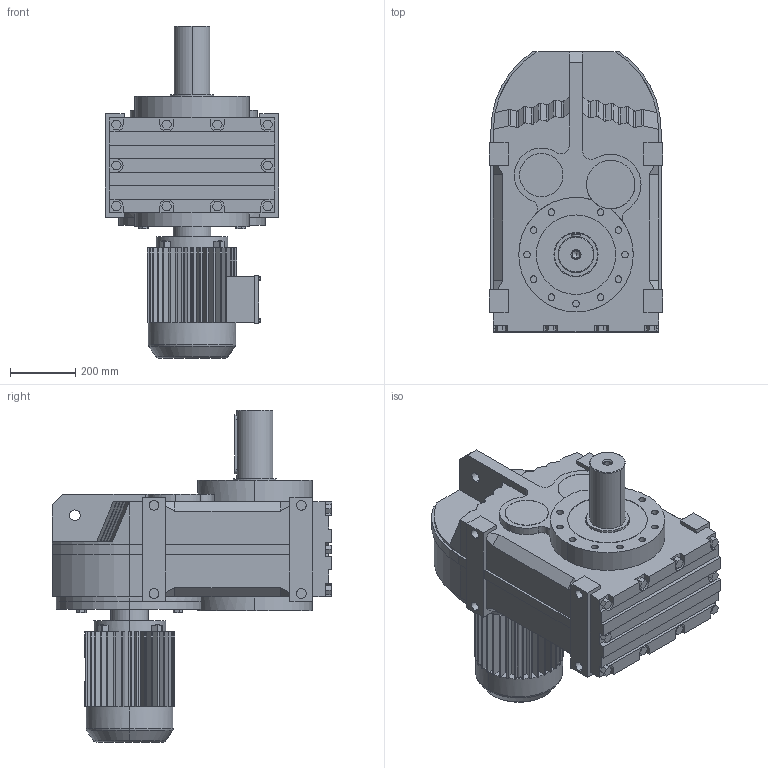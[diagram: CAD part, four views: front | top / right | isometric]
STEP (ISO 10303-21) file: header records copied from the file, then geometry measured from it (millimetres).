
FILE_DESCRIPTION(('Open CASCADE Model'),'2;1');
FILE_NAME('Open CASCADE Shape Model','2021-07-20T10:02:55',('Author'),( 'Open CASCADE'),'Open CASCADE STEP processor 6.3','Open CASCADE 6.3' ,'Unknown');
FILE_SCHEMA(('AUTOMOTIVE_DESIGN_CC2 { 1 2 10303 214 -1 1 5 4 }'));
Length unit declared in the file: millimetre
Products named in the file (4): 1_F127-Y132M; FA27‵157_127.step; 萇儂_450_Y132M.step; す瑩妗陑粣F_127.step
Assembly tree (3 placements, depth 2):
  1_F127-Y132M
    FA27‵157_127.step
    萇儂_450_Y132M.step
    す瑩妗陑粣F_127.step
Bounding box: 530 x 856 x 1015 mm (x, y, z)
Volume: 151269603 mm3; surface area: 3487464.5 mm2
Topology: 3 solids, 3 shells, 797 faces, 2094 edges, 1362 vertices
Faces by surface type: plane 566, cylinder 203, bspline 16, cone 8, torus 4
Entity records: 53697 total; most frequent: CARTESIAN_POINT 13610, DIRECTION 6997, ORIENTED_EDGE 4184, PCURVE 4184, DEFINITIONAL_REPRESENTATION 4184, LINE 3885, VECTOR 3885, EDGE_CURVE 2092
